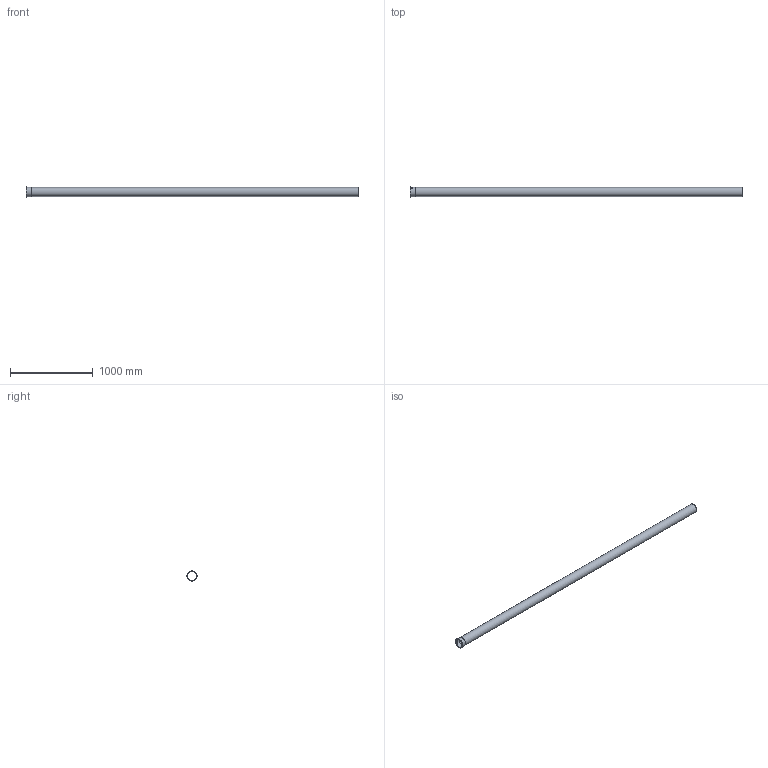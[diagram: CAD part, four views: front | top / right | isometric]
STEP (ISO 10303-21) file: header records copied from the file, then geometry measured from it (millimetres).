
FILE_DESCRIPTION((''),'2;1');
FILE_NAME('I:\WATTS\3D_CAD\3D_CAD_Models\Blucher_Drains\P_StraightPipe\WebsiteFiles\3D\STEP\P4-13.1-316.stp','2009-12-02T14:23:08',('menesek'),(''),'Autodesk Inventor 2010','Autodesk Inventor 2010','');
FILE_SCHEMA(('AUTOMOTIVE_DESIGN { 1 0 10303 214 1 1 1 1 }'));
Length unit declared in the file: inch
Products named in the file (1): P4-13.1-316
Bounding box: 4000 x 122.94 x 122.94 mm (x, y, z)
Volume: 1418454.5 mm3; surface area: 2744641.2 mm2
Topology: 1 solids, 1 shells, 109 faces, 285 edges, 190 vertices
Faces by surface type: plane 59, bspline 34, cylinder 16
Full cylindrical faces by diameter (mm): 107.95 x1, 109.982 x1, 111.252 x2, 122.936 x1
Entity records: 13900 total; most frequent: CARTESIAN_POINT 11522, ORIENTED_EDGE 548, DIRECTION 356, EDGE_CURVE 274, VERTEX_POINT 186, EDGE_LOOP 128, AXIS2_PLACEMENT_3D 120, VECTOR 116
